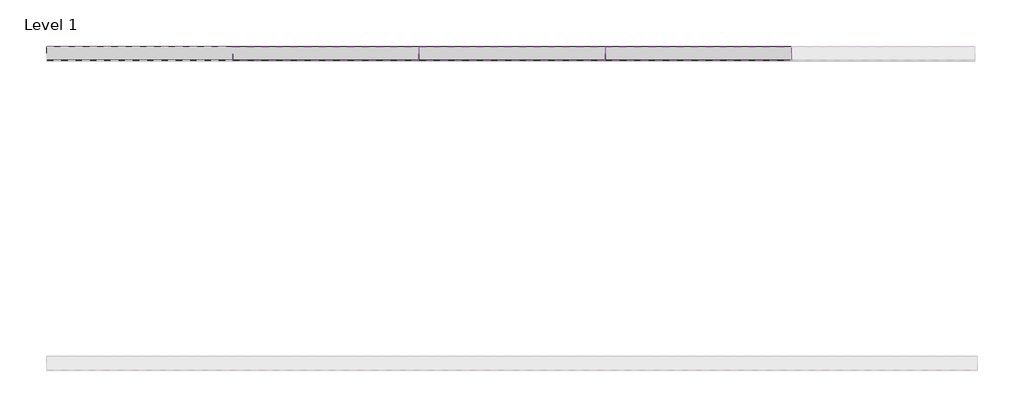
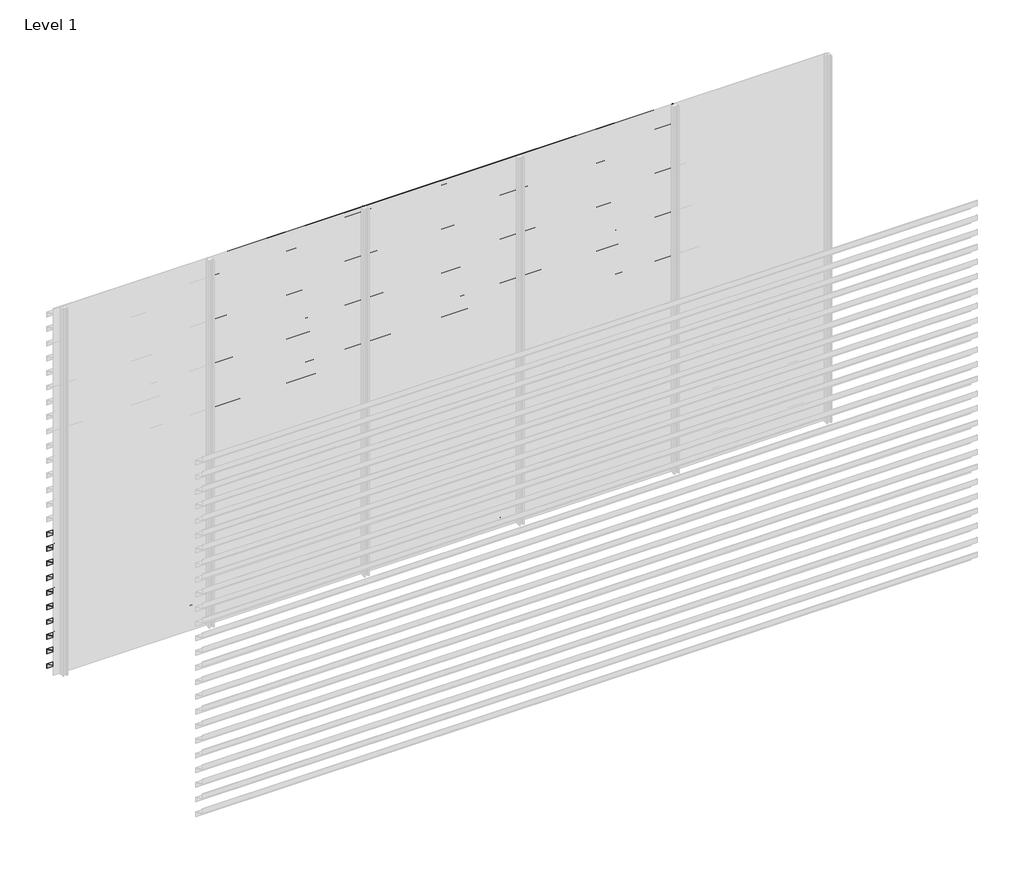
# One storey, part 35 of 46: 85 proxies.
"""IFC4 building model written with IfcOpenShell, lengths in millimetres."""

from ifc_helpers import new_model, si_unit, frame, origin, place, context, project, spatial, polyline, outline, extrude, element, save

model = new_model("IFC4")

# Units and contexts
model_context = context("Model", 3, world=origin())
ifc_project = project(units=[si_unit("LENGTHUNIT", "METRE", prefix="MILLI")], contexts=[model_context])

# Site, building, storey
site = spatial("IfcSite", under=ifc_project)
building = spatial("IfcBuilding", under=site)
storey = spatial("IfcBuildingStorey", under=building, Name="Level 1", Elevation=0.0)

# Proxies
placement = place(None, origin())
element("IfcBuildingElementProxy", 1, Name="Wall Sweeps", at=placement, inside=storey, context=model_context, shape_type="SweptSolid", body=[
    extrude(outline(polyline([(59023.0540136, 1120.0), (59023.0540136, 1080.0), (59021.0540136, 1081.349017), (59021.0540136, 1118.7258595), (58933.0540136, 1159.7609334), (58933.0540136, 1200.0), (58935.0540136, 1200.0), (58935.0540136, 1161.0350739), (59023.0540136, 1120.0)])), frame((466.6208097, 0.0, 0.0), z_axis=(1.0, 0.0, 0.0), x_axis=(0.0, 1.0, 0.0)), (0.0, 0.0, 1.0), 1200.0000002),
])
element("IfcBuildingElementProxy", 2, Name="Wall Sweeps", at=placement, inside=storey, context=model_context, shape_type="SweptSolid", body=[
    extrude(outline(polyline([(59023.0540136, 1000.0), (59023.0540136, 960.0), (59021.0540136, 961.349017), (59021.0540136, 998.7258595), (58933.0540136, 1039.7609334), (58933.0540136, 1080.0), (58935.0540136, 1080.0), (58935.0540136, 1041.0350739), (59023.0540136, 1000.0)])), frame((466.6208097, 0.0, 0.0), z_axis=(1.0, 0.0, 0.0), x_axis=(0.0, 1.0, 0.0)), (0.0, 0.0, 1.0), 1200.0000002),
])
element("IfcBuildingElementProxy", 3, Name="Wall Sweeps", at=placement, inside=storey, context=model_context, shape_type="SweptSolid", body=[
    extrude(outline(polyline([(59023.0540136, 880.0), (59023.0540136, 840.0), (59021.0540136, 841.349017), (59021.0540136, 878.7258595), (58933.0540136, 919.7609334), (58933.0540136, 960.0), (58935.0540136, 960.0), (58935.0540136, 921.0350739), (59023.0540136, 880.0)])), frame((466.6208097, 0.0, 0.0), z_axis=(1.0, 0.0, 0.0), x_axis=(0.0, 1.0, 0.0)), (0.0, 0.0, 1.0), 1200.0000002),
])
element("IfcBuildingElementProxy", 4, Name="Wall Sweeps", at=placement, inside=storey, context=model_context, shape_type="SweptSolid", body=[
    extrude(outline(polyline([(59023.0540136, 760.0), (59023.0540136, 720.0), (59021.0540136, 721.349017), (59021.0540136, 758.7258595), (58933.0540136, 799.7609334), (58933.0540136, 840.0), (58935.0540136, 840.0), (58935.0540136, 801.0350739), (59023.0540136, 760.0)])), frame((466.6208097, 0.0, 0.0), z_axis=(1.0, 0.0, 0.0), x_axis=(0.0, 1.0, 0.0)), (0.0, 0.0, 1.0), 1200.0000002),
])
element("IfcBuildingElementProxy", 5, Name="Wall Sweeps", at=placement, inside=storey, context=model_context, shape_type="SweptSolid", body=[
    extrude(outline(polyline([(59023.0540136, 640.0), (59023.0540136, 600.0), (59021.0540136, 601.349017), (59021.0540136, 638.7258595), (58933.0540136, 679.7609334), (58933.0540136, 720.0), (58935.0540136, 720.0), (58935.0540136, 681.0350739), (59023.0540136, 640.0)])), frame((466.6208097, 0.0, 0.0), z_axis=(1.0, 0.0, 0.0), x_axis=(0.0, 1.0, 0.0)), (0.0, 0.0, 1.0), 1200.0000002),
])
element("IfcBuildingElementProxy", 6, Name="Wall Sweeps", at=placement, inside=storey, context=model_context, shape_type="SweptSolid", body=[
    extrude(outline(polyline([(59023.0540136, 520.0), (59023.0540136, 480.0), (59021.0540136, 481.349017), (59021.0540136, 518.7258595), (58933.0540136, 559.7609334), (58933.0540136, 600.0), (58935.0540136, 600.0), (58935.0540136, 561.0350739), (59023.0540136, 520.0)])), frame((466.6208097, 0.0, 0.0), z_axis=(1.0, 0.0, 0.0), x_axis=(0.0, 1.0, 0.0)), (0.0, 0.0, 1.0), 1200.0000002),
])
element("IfcBuildingElementProxy", 7, Name="Wall Sweeps", at=placement, inside=storey, context=model_context, shape_type="SweptSolid", body=[
    extrude(outline(polyline([(59023.0540136, 400.0), (59023.0540136, 360.0), (59021.0540136, 361.349017), (59021.0540136, 398.7258595), (58933.0540136, 439.7609334), (58933.0540136, 480.0), (58935.0540136, 480.0), (58935.0540136, 441.0350739), (59023.0540136, 400.0)])), frame((466.6208097, 0.0, 0.0), z_axis=(1.0, 0.0, 0.0), x_axis=(0.0, 1.0, 0.0)), (0.0, 0.0, 1.0), 1200.0000002),
])
element("IfcBuildingElementProxy", 8, Name="Wall Sweeps", at=placement, inside=storey, context=model_context, shape_type="SweptSolid", body=[
    extrude(outline(polyline([(59023.0540136, 280.0), (59023.0540136, 240.0), (59021.0540136, 241.349017), (59021.0540136, 278.7258595), (58933.0540136, 319.7609334), (58933.0540136, 360.0), (58935.0540136, 360.0), (58935.0540136, 321.0350739), (59023.0540136, 280.0)])), frame((466.6208097, 0.0, 0.0), z_axis=(1.0, 0.0, 0.0), x_axis=(0.0, 1.0, 0.0)), (0.0, 0.0, 1.0), 1200.0000002),
])
element("IfcBuildingElementProxy", 9, Name="Wall Sweeps", at=placement, inside=storey, context=model_context, shape_type="SweptSolid", body=[
    extrude(outline(polyline([(59023.0540136, 160.0), (59023.0540136, 120.0), (59021.0540136, 121.349017), (59021.0540136, 158.7258595), (58933.0540136, 199.7609334), (58933.0540136, 240.0), (58935.0540136, 240.0), (58935.0540136, 201.0350739), (59023.0540136, 160.0)])), frame((466.6208097, 0.0, 0.0), z_axis=(1.0, 0.0, 0.0), x_axis=(0.0, 1.0, 0.0)), (0.0, 0.0, 1.0), 1200.0000002),
])
element("IfcBuildingElementProxy", 10, Name="Wall Sweeps", at=placement, inside=storey, context=model_context, shape_type="SweptSolid", body=[
    extrude(outline(polyline([(59023.0540136, 40.0), (59023.0540136, 0.0), (59021.0540136, 1.349017), (59021.0540136, 38.7258595), (58933.0540136, 79.7609334), (58933.0540136, 120.0), (58935.0540136, 120.0), (58935.0540136, 81.0350739), (59023.0540136, 40.0)])), frame((466.6208097, 0.0, 0.0), z_axis=(1.0, 0.0, 0.0), x_axis=(0.0, 1.0, 0.0)), (0.0, 0.0, 1.0), 1200.0000002),
])
element("IfcBuildingElementProxy", 11, Name="Wall Sweeps", at=placement, inside=storey, context=model_context, shape_type="SweptSolid", body=[
    extrude(outline(polyline([(59023.0540136, 2920.0), (59023.0540136, 2880.0), (59021.0540136, 2881.349017), (59021.0540136, 2918.7258595), (58933.0540136, 2959.7609334), (58933.0540136, 3000.0), (58935.0540136, 3000.0), (58935.0540136, 2961.0350739), (59023.0540136, 2920.0)])), frame((1666.6208099, 0.0, 0.0), z_axis=(1.0, 0.0, 0.0), x_axis=(0.0, 1.0, 0.0)), (0.0, 0.0, 1.0), 1199.9999999),
])
element("IfcBuildingElementProxy", 12, Name="Wall Sweeps", at=placement, inside=storey, context=model_context, shape_type="SweptSolid", body=[
    extrude(outline(polyline([(59023.0540136, 2800.0), (59023.0540136, 2760.0), (59021.0540136, 2761.349017), (59021.0540136, 2798.7258595), (58933.0540136, 2839.7609334), (58933.0540136, 2880.0), (58935.0540136, 2880.0), (58935.0540136, 2841.0350739), (59023.0540136, 2800.0)])), frame((1666.6208099, 0.0, 0.0), z_axis=(1.0, 0.0, 0.0), x_axis=(0.0, 1.0, 0.0)), (0.0, 0.0, 1.0), 1199.9999999),
])
element("IfcBuildingElementProxy", 13, Name="Wall Sweeps", at=placement, inside=storey, context=model_context, shape_type="SweptSolid", body=[
    extrude(outline(polyline([(59023.0540136, 2680.0), (59023.0540136, 2640.0), (59021.0540136, 2641.349017), (59021.0540136, 2678.7258595), (58933.0540136, 2719.7609334), (58933.0540136, 2760.0), (58935.0540136, 2760.0), (58935.0540136, 2721.0350739), (59023.0540136, 2680.0)])), frame((1666.6208099, 0.0, 0.0), z_axis=(1.0, 0.0, 0.0), x_axis=(0.0, 1.0, 0.0)), (0.0, 0.0, 1.0), 1199.9999999),
])
element("IfcBuildingElementProxy", 14, Name="Wall Sweeps", at=placement, inside=storey, context=model_context, shape_type="SweptSolid", body=[
    extrude(outline(polyline([(59023.0540136, 2560.0), (59023.0540136, 2520.0), (59021.0540136, 2521.349017), (59021.0540136, 2558.7258595), (58933.0540136, 2599.7609334), (58933.0540136, 2640.0), (58935.0540136, 2640.0), (58935.0540136, 2601.0350739), (59023.0540136, 2560.0)])), frame((1666.6208099, 0.0, 0.0), z_axis=(1.0, 0.0, 0.0), x_axis=(0.0, 1.0, 0.0)), (0.0, 0.0, 1.0), 1199.9999999),
])
element("IfcBuildingElementProxy", 15, Name="Wall Sweeps", at=placement, inside=storey, context=model_context, shape_type="SweptSolid", body=[
    extrude(outline(polyline([(59023.0540136, 2440.0), (59023.0540136, 2400.0), (59021.0540136, 2401.349017), (59021.0540136, 2438.7258595), (58933.0540136, 2479.7609334), (58933.0540136, 2520.0), (58935.0540136, 2520.0), (58935.0540136, 2481.0350739), (59023.0540136, 2440.0)])), frame((1666.6208099, 0.0, 0.0), z_axis=(1.0, 0.0, 0.0), x_axis=(0.0, 1.0, 0.0)), (0.0, 0.0, 1.0), 1199.9999999),
])
element("IfcBuildingElementProxy", 16, Name="Wall Sweeps", at=placement, inside=storey, context=model_context, shape_type="SweptSolid", body=[
    extrude(outline(polyline([(59023.0540136, 2320.0), (59023.0540136, 2280.0), (59021.0540136, 2281.349017), (59021.0540136, 2318.7258595), (58933.0540136, 2359.7609334), (58933.0540136, 2400.0), (58935.0540136, 2400.0), (58935.0540136, 2361.0350739), (59023.0540136, 2320.0)])), frame((1666.6208099, 0.0, 0.0), z_axis=(1.0, 0.0, 0.0), x_axis=(0.0, 1.0, 0.0)), (0.0, 0.0, 1.0), 1199.9999999),
])
element("IfcBuildingElementProxy", 17, Name="Wall Sweeps", at=placement, inside=storey, context=model_context, shape_type="SweptSolid", body=[
    extrude(outline(polyline([(59023.0540136, 2200.0), (59023.0540136, 2160.0), (59021.0540136, 2161.349017), (59021.0540136, 2198.7258595), (58933.0540136, 2239.7609334), (58933.0540136, 2280.0), (58935.0540136, 2280.0), (58935.0540136, 2241.0350739), (59023.0540136, 2200.0)])), frame((1666.6208099, 0.0, 0.0), z_axis=(1.0, 0.0, 0.0), x_axis=(0.0, 1.0, 0.0)), (0.0, 0.0, 1.0), 1199.9999999),
])
element("IfcBuildingElementProxy", 18, Name="Wall Sweeps", at=placement, inside=storey, context=model_context, shape_type="SweptSolid", body=[
    extrude(outline(polyline([(59023.0540136, 2080.0), (59023.0540136, 2040.0), (59021.0540136, 2041.349017), (59021.0540136, 2078.7258595), (58933.0540136, 2119.7609334), (58933.0540136, 2160.0), (58935.0540136, 2160.0), (58935.0540136, 2121.0350739), (59023.0540136, 2080.0)])), frame((1666.6208099, 0.0, 0.0), z_axis=(1.0, 0.0, 0.0), x_axis=(0.0, 1.0, 0.0)), (0.0, 0.0, 1.0), 1199.9999999),
])
element("IfcBuildingElementProxy", 19, Name="Wall Sweeps", at=placement, inside=storey, context=model_context, shape_type="SweptSolid", body=[
    extrude(outline(polyline([(59023.0540136, 1960.0), (59023.0540136, 1920.0), (59021.0540136, 1921.349017), (59021.0540136, 1958.7258595), (58933.0540136, 1999.7609334), (58933.0540136, 2040.0), (58935.0540136, 2040.0), (58935.0540136, 2001.0350739), (59023.0540136, 1960.0)])), frame((1666.6208099, 0.0, 0.0), z_axis=(1.0, 0.0, 0.0), x_axis=(0.0, 1.0, 0.0)), (0.0, 0.0, 1.0), 1199.9999999),
])
element("IfcBuildingElementProxy", 20, Name="Wall Sweeps", at=placement, inside=storey, context=model_context, shape_type="SweptSolid", body=[
    extrude(outline(polyline([(59023.0540136, 1840.0), (59023.0540136, 1800.0), (59021.0540136, 1801.349017), (59021.0540136, 1838.7258595), (58933.0540136, 1879.7609334), (58933.0540136, 1920.0), (58935.0540136, 1920.0), (58935.0540136, 1881.0350739), (59023.0540136, 1840.0)])), frame((1666.6208099, 0.0, 0.0), z_axis=(1.0, 0.0, 0.0), x_axis=(0.0, 1.0, 0.0)), (0.0, 0.0, 1.0), 1199.9999999),
])
element("IfcBuildingElementProxy", 21, Name="Wall Sweeps", at=placement, inside=storey, context=model_context, shape_type="SweptSolid", body=[
    extrude(outline(polyline([(59023.0540136, 1720.0), (59023.0540136, 1680.0), (59021.0540136, 1681.349017), (59021.0540136, 1718.7258595), (58933.0540136, 1759.7609334), (58933.0540136, 1800.0), (58935.0540136, 1800.0), (58935.0540136, 1761.0350739), (59023.0540136, 1720.0)])), frame((1666.6208099, 0.0, 0.0), z_axis=(1.0, 0.0, 0.0), x_axis=(0.0, 1.0, 0.0)), (0.0, 0.0, 1.0), 1199.9999999),
])
element("IfcBuildingElementProxy", 22, Name="Wall Sweeps", at=placement, inside=storey, context=model_context, shape_type="SweptSolid", body=[
    extrude(outline(polyline([(59023.0540136, 1600.0), (59023.0540136, 1560.0), (59021.0540136, 1561.349017), (59021.0540136, 1598.7258595), (58933.0540136, 1639.7609334), (58933.0540136, 1680.0), (58935.0540136, 1680.0), (58935.0540136, 1641.0350739), (59023.0540136, 1600.0)])), frame((1666.6208099, 0.0, 0.0), z_axis=(1.0, 0.0, 0.0), x_axis=(0.0, 1.0, 0.0)), (0.0, 0.0, 1.0), 1199.9999999),
])
element("IfcBuildingElementProxy", 23, Name="Wall Sweeps", at=placement, inside=storey, context=model_context, shape_type="SweptSolid", body=[
    extrude(outline(polyline([(59023.0540136, 1480.0), (59023.0540136, 1440.0), (59021.0540136, 1441.349017), (59021.0540136, 1478.7258595), (58933.0540136, 1519.7609334), (58933.0540136, 1560.0), (58935.0540136, 1560.0), (58935.0540136, 1521.0350739), (59023.0540136, 1480.0)])), frame((1666.6208099, 0.0, 0.0), z_axis=(1.0, 0.0, 0.0), x_axis=(0.0, 1.0, 0.0)), (0.0, 0.0, 1.0), 1199.9999999),
])
element("IfcBuildingElementProxy", 24, Name="Wall Sweeps", at=placement, inside=storey, context=model_context, shape_type="SweptSolid", body=[
    extrude(outline(polyline([(59023.0540136, 1360.0), (59023.0540136, 1320.0), (59021.0540136, 1321.349017), (59021.0540136, 1358.7258595), (58933.0540136, 1399.7609334), (58933.0540136, 1440.0), (58935.0540136, 1440.0), (58935.0540136, 1401.0350739), (59023.0540136, 1360.0)])), frame((1666.6208099, 0.0, 0.0), z_axis=(1.0, 0.0, 0.0), x_axis=(0.0, 1.0, 0.0)), (0.0, 0.0, 1.0), 1199.9999999),
])
element("IfcBuildingElementProxy", 25, Name="Wall Sweeps", at=placement, inside=storey, context=model_context, shape_type="SweptSolid", body=[
    extrude(outline(polyline([(59023.0540136, 1240.0), (59023.0540136, 1200.0), (59021.0540136, 1201.349017), (59021.0540136, 1238.7258595), (58933.0540136, 1279.7609334), (58933.0540136, 1320.0), (58935.0540136, 1320.0), (58935.0540136, 1281.0350739), (59023.0540136, 1240.0)])), frame((1666.6208099, 0.0, 0.0), z_axis=(1.0, 0.0, 0.0), x_axis=(0.0, 1.0, 0.0)), (0.0, 0.0, 1.0), 1199.9999999),
])
element("IfcBuildingElementProxy", 26, Name="Wall Sweeps", at=placement, inside=storey, context=model_context, shape_type="SweptSolid", body=[
    extrude(outline(polyline([(59023.0540136, 1120.0), (59023.0540136, 1080.0), (59021.0540136, 1081.349017), (59021.0540136, 1118.7258595), (58933.0540136, 1159.7609334), (58933.0540136, 1200.0), (58935.0540136, 1200.0), (58935.0540136, 1161.0350739), (59023.0540136, 1120.0)])), frame((1666.6208099, 0.0, 0.0), z_axis=(1.0, 0.0, 0.0), x_axis=(0.0, 1.0, 0.0)), (0.0, 0.0, 1.0), 1199.9999999),
])
element("IfcBuildingElementProxy", 27, Name="Wall Sweeps", at=placement, inside=storey, context=model_context, shape_type="SweptSolid", body=[
    extrude(outline(polyline([(59023.0540136, 1000.0), (59023.0540136, 960.0), (59021.0540136, 961.349017), (59021.0540136, 998.7258595), (58933.0540136, 1039.7609334), (58933.0540136, 1080.0), (58935.0540136, 1080.0), (58935.0540136, 1041.0350739), (59023.0540136, 1000.0)])), frame((1666.6208099, 0.0, 0.0), z_axis=(1.0, 0.0, 0.0), x_axis=(0.0, 1.0, 0.0)), (0.0, 0.0, 1.0), 1199.9999999),
])
element("IfcBuildingElementProxy", 28, Name="Wall Sweeps", at=placement, inside=storey, context=model_context, shape_type="SweptSolid", body=[
    extrude(outline(polyline([(59023.0540136, 880.0), (59023.0540136, 840.0), (59021.0540136, 841.349017), (59021.0540136, 878.7258595), (58933.0540136, 919.7609334), (58933.0540136, 960.0), (58935.0540136, 960.0), (58935.0540136, 921.0350739), (59023.0540136, 880.0)])), frame((1666.6208099, 0.0, 0.0), z_axis=(1.0, 0.0, 0.0), x_axis=(0.0, 1.0, 0.0)), (0.0, 0.0, 1.0), 1199.9999999),
])
element("IfcBuildingElementProxy", 29, Name="Wall Sweeps", at=placement, inside=storey, context=model_context, shape_type="SweptSolid", body=[
    extrude(outline(polyline([(59023.0540136, 760.0), (59023.0540136, 720.0), (59021.0540136, 721.349017), (59021.0540136, 758.7258595), (58933.0540136, 799.7609334), (58933.0540136, 840.0), (58935.0540136, 840.0), (58935.0540136, 801.0350739), (59023.0540136, 760.0)])), frame((1666.6208099, 0.0, 0.0), z_axis=(1.0, 0.0, 0.0), x_axis=(0.0, 1.0, 0.0)), (0.0, 0.0, 1.0), 1199.9999999),
])
element("IfcBuildingElementProxy", 30, Name="Wall Sweeps", at=placement, inside=storey, context=model_context, shape_type="SweptSolid", body=[
    extrude(outline(polyline([(59023.0540136, 640.0), (59023.0540136, 600.0), (59021.0540136, 601.349017), (59021.0540136, 638.7258595), (58933.0540136, 679.7609334), (58933.0540136, 720.0), (58935.0540136, 720.0), (58935.0540136, 681.0350739), (59023.0540136, 640.0)])), frame((1666.6208099, 0.0, 0.0), z_axis=(1.0, 0.0, 0.0), x_axis=(0.0, 1.0, 0.0)), (0.0, 0.0, 1.0), 1199.9999999),
])
element("IfcBuildingElementProxy", 31, Name="Wall Sweeps", at=placement, inside=storey, context=model_context, shape_type="SweptSolid", body=[
    extrude(outline(polyline([(59023.0540136, 520.0), (59023.0540136, 480.0), (59021.0540136, 481.349017), (59021.0540136, 518.7258595), (58933.0540136, 559.7609334), (58933.0540136, 600.0), (58935.0540136, 600.0), (58935.0540136, 561.0350739), (59023.0540136, 520.0)])), frame((1666.6208099, 0.0, 0.0), z_axis=(1.0, 0.0, 0.0), x_axis=(0.0, 1.0, 0.0)), (0.0, 0.0, 1.0), 1199.9999999),
])
element("IfcBuildingElementProxy", 32, Name="Wall Sweeps", at=placement, inside=storey, context=model_context, shape_type="SweptSolid", body=[
    extrude(outline(polyline([(59023.0540136, 400.0), (59023.0540136, 360.0), (59021.0540136, 361.349017), (59021.0540136, 398.7258595), (58933.0540136, 439.7609334), (58933.0540136, 480.0), (58935.0540136, 480.0), (58935.0540136, 441.0350739), (59023.0540136, 400.0)])), frame((1666.6208099, 0.0, 0.0), z_axis=(1.0, 0.0, 0.0), x_axis=(0.0, 1.0, 0.0)), (0.0, 0.0, 1.0), 1199.9999999),
])
element("IfcBuildingElementProxy", 33, Name="Wall Sweeps", at=placement, inside=storey, context=model_context, shape_type="SweptSolid", body=[
    extrude(outline(polyline([(59023.0540136, 280.0), (59023.0540136, 240.0), (59021.0540136, 241.349017), (59021.0540136, 278.7258595), (58933.0540136, 319.7609334), (58933.0540136, 360.0), (58935.0540136, 360.0), (58935.0540136, 321.0350739), (59023.0540136, 280.0)])), frame((1666.6208099, 0.0, 0.0), z_axis=(1.0, 0.0, 0.0), x_axis=(0.0, 1.0, 0.0)), (0.0, 0.0, 1.0), 1199.9999999),
])
element("IfcBuildingElementProxy", 34, Name="Wall Sweeps", at=placement, inside=storey, context=model_context, shape_type="SweptSolid", body=[
    extrude(outline(polyline([(59023.0540136, 160.0), (59023.0540136, 120.0), (59021.0540136, 121.349017), (59021.0540136, 158.7258595), (58933.0540136, 199.7609334), (58933.0540136, 240.0), (58935.0540136, 240.0), (58935.0540136, 201.0350739), (59023.0540136, 160.0)])), frame((1666.6208099, 0.0, 0.0), z_axis=(1.0, 0.0, 0.0), x_axis=(0.0, 1.0, 0.0)), (0.0, 0.0, 1.0), 1199.9999999),
])
element("IfcBuildingElementProxy", 35, Name="Wall Sweeps", at=placement, inside=storey, context=model_context, shape_type="SweptSolid", body=[
    extrude(outline(polyline([(59023.0540136, 40.0), (59023.0540136, 0.0), (59021.0540136, 1.349017), (59021.0540136, 38.7258595), (58933.0540136, 79.7609334), (58933.0540136, 120.0), (58935.0540136, 120.0), (58935.0540136, 81.0350739), (59023.0540136, 40.0)])), frame((1666.6208099, 0.0, 0.0), z_axis=(1.0, 0.0, 0.0), x_axis=(0.0, 1.0, 0.0)), (0.0, 0.0, 1.0), 1199.9999999),
])
element("IfcBuildingElementProxy", 36, Name="Wall Sweeps", at=placement, inside=storey, context=model_context, shape_type="SweptSolid", body=[
    extrude(outline(polyline([(59023.0540136, 2920.0), (59023.0540136, 2880.0), (59021.0540136, 2881.349017), (59021.0540136, 2918.7258595), (58933.0540136, 2959.7609334), (58933.0540136, 3000.0), (58935.0540136, 3000.0), (58935.0540136, 2961.0350739), (59023.0540136, 2920.0)])), frame((2866.6208097, 0.0, 0.0), z_axis=(1.0, 0.0, 0.0), x_axis=(0.0, 1.0, 0.0)), (0.0, 0.0, 1.0), 1199.9999999),
])
element("IfcBuildingElementProxy", 37, Name="Wall Sweeps", at=placement, inside=storey, context=model_context, shape_type="SweptSolid", body=[
    extrude(outline(polyline([(59023.0540136, 2800.0), (59023.0540136, 2760.0), (59021.0540136, 2761.349017), (59021.0540136, 2798.7258595), (58933.0540136, 2839.7609334), (58933.0540136, 2880.0), (58935.0540136, 2880.0), (58935.0540136, 2841.0350739), (59023.0540136, 2800.0)])), frame((2866.6208097, 0.0, 0.0), z_axis=(1.0, 0.0, 0.0), x_axis=(0.0, 1.0, 0.0)), (0.0, 0.0, 1.0), 1199.9999999),
])
element("IfcBuildingElementProxy", 38, Name="Wall Sweeps", at=placement, inside=storey, context=model_context, shape_type="SweptSolid", body=[
    extrude(outline(polyline([(59023.0540136, 2680.0), (59023.0540136, 2640.0), (59021.0540136, 2641.349017), (59021.0540136, 2678.7258595), (58933.0540136, 2719.7609334), (58933.0540136, 2760.0), (58935.0540136, 2760.0), (58935.0540136, 2721.0350739), (59023.0540136, 2680.0)])), frame((2866.6208097, 0.0, 0.0), z_axis=(1.0, 0.0, 0.0), x_axis=(0.0, 1.0, 0.0)), (0.0, 0.0, 1.0), 1199.9999999),
])
element("IfcBuildingElementProxy", 39, Name="Wall Sweeps", at=placement, inside=storey, context=model_context, shape_type="SweptSolid", body=[
    extrude(outline(polyline([(59023.0540136, 2560.0), (59023.0540136, 2520.0), (59021.0540136, 2521.349017), (59021.0540136, 2558.7258595), (58933.0540136, 2599.7609334), (58933.0540136, 2640.0), (58935.0540136, 2640.0), (58935.0540136, 2601.0350739), (59023.0540136, 2560.0)])), frame((2866.6208097, 0.0, 0.0), z_axis=(1.0, 0.0, 0.0), x_axis=(0.0, 1.0, 0.0)), (0.0, 0.0, 1.0), 1199.9999999),
])
element("IfcBuildingElementProxy", 40, Name="Wall Sweeps", at=placement, inside=storey, context=model_context, shape_type="SweptSolid", body=[
    extrude(outline(polyline([(59023.0540136, 2440.0), (59023.0540136, 2400.0), (59021.0540136, 2401.349017), (59021.0540136, 2438.7258595), (58933.0540136, 2479.7609334), (58933.0540136, 2520.0), (58935.0540136, 2520.0), (58935.0540136, 2481.0350739), (59023.0540136, 2440.0)])), frame((2866.6208097, 0.0, 0.0), z_axis=(1.0, 0.0, 0.0), x_axis=(0.0, 1.0, 0.0)), (0.0, 0.0, 1.0), 1199.9999999),
])
element("IfcBuildingElementProxy", 41, Name="Wall Sweeps", at=placement, inside=storey, context=model_context, shape_type="SweptSolid", body=[
    extrude(outline(polyline([(59023.0540136, 2320.0), (59023.0540136, 2280.0), (59021.0540136, 2281.349017), (59021.0540136, 2318.7258595), (58933.0540136, 2359.7609334), (58933.0540136, 2400.0), (58935.0540136, 2400.0), (58935.0540136, 2361.0350739), (59023.0540136, 2320.0)])), frame((2866.6208097, 0.0, 0.0), z_axis=(1.0, 0.0, 0.0), x_axis=(0.0, 1.0, 0.0)), (0.0, 0.0, 1.0), 1199.9999999),
])
element("IfcBuildingElementProxy", 42, Name="Wall Sweeps", at=placement, inside=storey, context=model_context, shape_type="SweptSolid", body=[
    extrude(outline(polyline([(59023.0540136, 2200.0), (59023.0540136, 2160.0), (59021.0540136, 2161.349017), (59021.0540136, 2198.7258595), (58933.0540136, 2239.7609334), (58933.0540136, 2280.0), (58935.0540136, 2280.0), (58935.0540136, 2241.0350739), (59023.0540136, 2200.0)])), frame((2866.6208097, 0.0, 0.0), z_axis=(1.0, 0.0, 0.0), x_axis=(0.0, 1.0, 0.0)), (0.0, 0.0, 1.0), 1199.9999999),
])
element("IfcBuildingElementProxy", 43, Name="Wall Sweeps", at=placement, inside=storey, context=model_context, shape_type="SweptSolid", body=[
    extrude(outline(polyline([(59023.0540136, 2080.0), (59023.0540136, 2040.0), (59021.0540136, 2041.349017), (59021.0540136, 2078.7258595), (58933.0540136, 2119.7609334), (58933.0540136, 2160.0), (58935.0540136, 2160.0), (58935.0540136, 2121.0350739), (59023.0540136, 2080.0)])), frame((2866.6208097, 0.0, 0.0), z_axis=(1.0, 0.0, 0.0), x_axis=(0.0, 1.0, 0.0)), (0.0, 0.0, 1.0), 1199.9999999),
])
element("IfcBuildingElementProxy", 44, Name="Wall Sweeps", at=placement, inside=storey, context=model_context, shape_type="SweptSolid", body=[
    extrude(outline(polyline([(59023.0540136, 1960.0), (59023.0540136, 1920.0), (59021.0540136, 1921.349017), (59021.0540136, 1958.7258595), (58933.0540136, 1999.7609334), (58933.0540136, 2040.0), (58935.0540136, 2040.0), (58935.0540136, 2001.0350739), (59023.0540136, 1960.0)])), frame((2866.6208097, 0.0, 0.0), z_axis=(1.0, 0.0, 0.0), x_axis=(0.0, 1.0, 0.0)), (0.0, 0.0, 1.0), 1199.9999999),
])
element("IfcBuildingElementProxy", 45, Name="Wall Sweeps", at=placement, inside=storey, context=model_context, shape_type="SweptSolid", body=[
    extrude(outline(polyline([(59023.0540136, 1840.0), (59023.0540136, 1800.0), (59021.0540136, 1801.349017), (59021.0540136, 1838.7258595), (58933.0540136, 1879.7609334), (58933.0540136, 1920.0), (58935.0540136, 1920.0), (58935.0540136, 1881.0350739), (59023.0540136, 1840.0)])), frame((2866.6208097, 0.0, 0.0), z_axis=(1.0, 0.0, 0.0), x_axis=(0.0, 1.0, 0.0)), (0.0, 0.0, 1.0), 1199.9999999),
])
element("IfcBuildingElementProxy", 46, Name="Wall Sweeps", at=placement, inside=storey, context=model_context, shape_type="SweptSolid", body=[
    extrude(outline(polyline([(59023.0540136, 1720.0), (59023.0540136, 1680.0), (59021.0540136, 1681.349017), (59021.0540136, 1718.7258595), (58933.0540136, 1759.7609334), (58933.0540136, 1800.0), (58935.0540136, 1800.0), (58935.0540136, 1761.0350739), (59023.0540136, 1720.0)])), frame((2866.6208097, 0.0, 0.0), z_axis=(1.0, 0.0, 0.0), x_axis=(0.0, 1.0, 0.0)), (0.0, 0.0, 1.0), 1199.9999999),
])
element("IfcBuildingElementProxy", 47, Name="Wall Sweeps", at=placement, inside=storey, context=model_context, shape_type="SweptSolid", body=[
    extrude(outline(polyline([(59023.0540136, 1600.0), (59023.0540136, 1560.0), (59021.0540136, 1561.349017), (59021.0540136, 1598.7258595), (58933.0540136, 1639.7609334), (58933.0540136, 1680.0), (58935.0540136, 1680.0), (58935.0540136, 1641.0350739), (59023.0540136, 1600.0)])), frame((2866.6208097, 0.0, 0.0), z_axis=(1.0, 0.0, 0.0), x_axis=(0.0, 1.0, 0.0)), (0.0, 0.0, 1.0), 1199.9999999),
])
element("IfcBuildingElementProxy", 48, Name="Wall Sweeps", at=placement, inside=storey, context=model_context, shape_type="SweptSolid", body=[
    extrude(outline(polyline([(59023.0540136, 1480.0), (59023.0540136, 1440.0), (59021.0540136, 1441.349017), (59021.0540136, 1478.7258595), (58933.0540136, 1519.7609334), (58933.0540136, 1560.0), (58935.0540136, 1560.0), (58935.0540136, 1521.0350739), (59023.0540136, 1480.0)])), frame((2866.6208097, 0.0, 0.0), z_axis=(1.0, 0.0, 0.0), x_axis=(0.0, 1.0, 0.0)), (0.0, 0.0, 1.0), 1199.9999999),
])
element("IfcBuildingElementProxy", 49, Name="Wall Sweeps", at=placement, inside=storey, context=model_context, shape_type="SweptSolid", body=[
    extrude(outline(polyline([(59023.0540136, 1360.0), (59023.0540136, 1320.0), (59021.0540136, 1321.349017), (59021.0540136, 1358.7258595), (58933.0540136, 1399.7609334), (58933.0540136, 1440.0), (58935.0540136, 1440.0), (58935.0540136, 1401.0350739), (59023.0540136, 1360.0)])), frame((2866.6208097, 0.0, 0.0), z_axis=(1.0, 0.0, 0.0), x_axis=(0.0, 1.0, 0.0)), (0.0, 0.0, 1.0), 1199.9999999),
])
element("IfcBuildingElementProxy", 50, Name="Wall Sweeps", at=placement, inside=storey, context=model_context, shape_type="SweptSolid", body=[
    extrude(outline(polyline([(59023.0540136, 1240.0), (59023.0540136, 1200.0), (59021.0540136, 1201.349017), (59021.0540136, 1238.7258595), (58933.0540136, 1279.7609334), (58933.0540136, 1320.0), (58935.0540136, 1320.0), (58935.0540136, 1281.0350739), (59023.0540136, 1240.0)])), frame((2866.6208097, 0.0, 0.0), z_axis=(1.0, 0.0, 0.0), x_axis=(0.0, 1.0, 0.0)), (0.0, 0.0, 1.0), 1199.9999999),
])
element("IfcBuildingElementProxy", 51, Name="Wall Sweeps", at=placement, inside=storey, context=model_context, shape_type="SweptSolid", body=[
    extrude(outline(polyline([(59023.0540136, 1120.0), (59023.0540136, 1080.0), (59021.0540136, 1081.349017), (59021.0540136, 1118.7258595), (58933.0540136, 1159.7609334), (58933.0540136, 1200.0), (58935.0540136, 1200.0), (58935.0540136, 1161.0350739), (59023.0540136, 1120.0)])), frame((2866.6208097, 0.0, 0.0), z_axis=(1.0, 0.0, 0.0), x_axis=(0.0, 1.0, 0.0)), (0.0, 0.0, 1.0), 1199.9999999),
])
element("IfcBuildingElementProxy", 52, Name="Wall Sweeps", at=placement, inside=storey, context=model_context, shape_type="SweptSolid", body=[
    extrude(outline(polyline([(59023.0540136, 1000.0), (59023.0540136, 960.0), (59021.0540136, 961.349017), (59021.0540136, 998.7258595), (58933.0540136, 1039.7609334), (58933.0540136, 1080.0), (58935.0540136, 1080.0), (58935.0540136, 1041.0350739), (59023.0540136, 1000.0)])), frame((2866.6208097, 0.0, 0.0), z_axis=(1.0, 0.0, 0.0), x_axis=(0.0, 1.0, 0.0)), (0.0, 0.0, 1.0), 1199.9999999),
])
element("IfcBuildingElementProxy", 53, Name="Wall Sweeps", at=placement, inside=storey, context=model_context, shape_type="SweptSolid", body=[
    extrude(outline(polyline([(59023.0540136, 880.0), (59023.0540136, 840.0), (59021.0540136, 841.349017), (59021.0540136, 878.7258595), (58933.0540136, 919.7609334), (58933.0540136, 960.0), (58935.0540136, 960.0), (58935.0540136, 921.0350739), (59023.0540136, 880.0)])), frame((2866.6208097, 0.0, 0.0), z_axis=(1.0, 0.0, 0.0), x_axis=(0.0, 1.0, 0.0)), (0.0, 0.0, 1.0), 1199.9999999),
])
element("IfcBuildingElementProxy", 54, Name="Wall Sweeps", at=placement, inside=storey, context=model_context, shape_type="SweptSolid", body=[
    extrude(outline(polyline([(59023.0540136, 760.0), (59023.0540136, 720.0), (59021.0540136, 721.349017), (59021.0540136, 758.7258595), (58933.0540136, 799.7609334), (58933.0540136, 840.0), (58935.0540136, 840.0), (58935.0540136, 801.0350739), (59023.0540136, 760.0)])), frame((2866.6208097, 0.0, 0.0), z_axis=(1.0, 0.0, 0.0), x_axis=(0.0, 1.0, 0.0)), (0.0, 0.0, 1.0), 1199.9999999),
])
element("IfcBuildingElementProxy", 55, Name="Wall Sweeps", at=placement, inside=storey, context=model_context, shape_type="SweptSolid", body=[
    extrude(outline(polyline([(59023.0540136, 640.0), (59023.0540136, 600.0), (59021.0540136, 601.349017), (59021.0540136, 638.7258595), (58933.0540136, 679.7609334), (58933.0540136, 720.0), (58935.0540136, 720.0), (58935.0540136, 681.0350739), (59023.0540136, 640.0)])), frame((2866.6208097, 0.0, 0.0), z_axis=(1.0, 0.0, 0.0), x_axis=(0.0, 1.0, 0.0)), (0.0, 0.0, 1.0), 1199.9999999),
])
element("IfcBuildingElementProxy", 56, Name="Wall Sweeps", at=placement, inside=storey, context=model_context, shape_type="SweptSolid", body=[
    extrude(outline(polyline([(59023.0540136, 520.0), (59023.0540136, 480.0), (59021.0540136, 481.349017), (59021.0540136, 518.7258595), (58933.0540136, 559.7609334), (58933.0540136, 600.0), (58935.0540136, 600.0), (58935.0540136, 561.0350739), (59023.0540136, 520.0)])), frame((2866.6208097, 0.0, 0.0), z_axis=(1.0, 0.0, 0.0), x_axis=(0.0, 1.0, 0.0)), (0.0, 0.0, 1.0), 1199.9999999),
])
element("IfcBuildingElementProxy", 57, Name="Wall Sweeps", at=placement, inside=storey, context=model_context, shape_type="SweptSolid", body=[
    extrude(outline(polyline([(59023.0540136, 400.0), (59023.0540136, 360.0), (59021.0540136, 361.349017), (59021.0540136, 398.7258595), (58933.0540136, 439.7609334), (58933.0540136, 480.0), (58935.0540136, 480.0), (58935.0540136, 441.0350739), (59023.0540136, 400.0)])), frame((2866.6208097, 0.0, 0.0), z_axis=(1.0, 0.0, 0.0), x_axis=(0.0, 1.0, 0.0)), (0.0, 0.0, 1.0), 1199.9999999),
])
element("IfcBuildingElementProxy", 58, Name="Wall Sweeps", at=placement, inside=storey, context=model_context, shape_type="SweptSolid", body=[
    extrude(outline(polyline([(59023.0540136, 280.0), (59023.0540136, 240.0), (59021.0540136, 241.349017), (59021.0540136, 278.7258595), (58933.0540136, 319.7609334), (58933.0540136, 360.0), (58935.0540136, 360.0), (58935.0540136, 321.0350739), (59023.0540136, 280.0)])), frame((2866.6208097, 0.0, 0.0), z_axis=(1.0, 0.0, 0.0), x_axis=(0.0, 1.0, 0.0)), (0.0, 0.0, 1.0), 1199.9999999),
])
element("IfcBuildingElementProxy", 59, Name="Wall Sweeps", at=placement, inside=storey, context=model_context, shape_type="SweptSolid", body=[
    extrude(outline(polyline([(59023.0540136, 160.0), (59023.0540136, 120.0), (59021.0540136, 121.349017), (59021.0540136, 158.7258595), (58933.0540136, 199.7609334), (58933.0540136, 240.0), (58935.0540136, 240.0), (58935.0540136, 201.0350739), (59023.0540136, 160.0)])), frame((2866.6208097, 0.0, 0.0), z_axis=(1.0, 0.0, 0.0), x_axis=(0.0, 1.0, 0.0)), (0.0, 0.0, 1.0), 1199.9999999),
])
element("IfcBuildingElementProxy", 60, Name="Wall Sweeps", at=placement, inside=storey, context=model_context, shape_type="SweptSolid", body=[
    extrude(outline(polyline([(59023.0540136, 40.0), (59023.0540136, 0.0), (59021.0540136, 1.349017), (59021.0540136, 38.7258595), (58933.0540136, 79.7609334), (58933.0540136, 120.0), (58935.0540136, 120.0), (58935.0540136, 81.0350739), (59023.0540136, 40.0)])), frame((2866.6208097, 0.0, 0.0), z_axis=(1.0, 0.0, 0.0), x_axis=(0.0, 1.0, 0.0)), (0.0, 0.0, 1.0), 1199.9999999),
])
element("IfcBuildingElementProxy", 61, Name="Wall Sweeps", at=placement, inside=storey, context=model_context, shape_type="SweptSolid", body=[
    extrude(outline(polyline([(59023.0540136, 2920.0), (59023.0540136, 2880.0), (59021.0540136, 2881.349017), (59021.0540136, 2918.7258595), (58933.0540136, 2959.7609334), (58933.0540136, 3000.0), (58935.0540136, 3000.0), (58935.0540136, 2961.0350739), (59023.0540136, 2920.0)])), frame((4066.6208096, 0.0, 0.0), z_axis=(1.0, 0.0, 0.0), x_axis=(0.0, 1.0, 0.0)), (0.0, 0.0, 1.0), 1199.9999999),
])
element("IfcBuildingElementProxy", 62, Name="Wall Sweeps", at=placement, inside=storey, context=model_context, shape_type="SweptSolid", body=[
    extrude(outline(polyline([(59023.0540136, 2800.0), (59023.0540136, 2760.0), (59021.0540136, 2761.349017), (59021.0540136, 2798.7258595), (58933.0540136, 2839.7609334), (58933.0540136, 2880.0), (58935.0540136, 2880.0), (58935.0540136, 2841.0350739), (59023.0540136, 2800.0)])), frame((4066.6208096, 0.0, 0.0), z_axis=(1.0, 0.0, 0.0), x_axis=(0.0, 1.0, 0.0)), (0.0, 0.0, 1.0), 1199.9999999),
])
element("IfcBuildingElementProxy", 63, Name="Wall Sweeps", at=placement, inside=storey, context=model_context, shape_type="SweptSolid", body=[
    extrude(outline(polyline([(59023.0540136, 2680.0), (59023.0540136, 2640.0), (59021.0540136, 2641.349017), (59021.0540136, 2678.7258595), (58933.0540136, 2719.7609334), (58933.0540136, 2760.0), (58935.0540136, 2760.0), (58935.0540136, 2721.0350739), (59023.0540136, 2680.0)])), frame((4066.6208096, 0.0, 0.0), z_axis=(1.0, 0.0, 0.0), x_axis=(0.0, 1.0, 0.0)), (0.0, 0.0, 1.0), 1199.9999999),
])
element("IfcBuildingElementProxy", 64, Name="Wall Sweeps", at=placement, inside=storey, context=model_context, shape_type="SweptSolid", body=[
    extrude(outline(polyline([(59023.0540136, 2560.0), (59023.0540136, 2520.0), (59021.0540136, 2521.349017), (59021.0540136, 2558.7258595), (58933.0540136, 2599.7609334), (58933.0540136, 2640.0), (58935.0540136, 2640.0), (58935.0540136, 2601.0350739), (59023.0540136, 2560.0)])), frame((4066.6208096, 0.0, 0.0), z_axis=(1.0, 0.0, 0.0), x_axis=(0.0, 1.0, 0.0)), (0.0, 0.0, 1.0), 1199.9999999),
])
element("IfcBuildingElementProxy", 65, Name="Wall Sweeps", at=placement, inside=storey, context=model_context, shape_type="SweptSolid", body=[
    extrude(outline(polyline([(59023.0540136, 2440.0), (59023.0540136, 2400.0), (59021.0540136, 2401.349017), (59021.0540136, 2438.7258595), (58933.0540136, 2479.7609334), (58933.0540136, 2520.0), (58935.0540136, 2520.0), (58935.0540136, 2481.0350739), (59023.0540136, 2440.0)])), frame((4066.6208096, 0.0, 0.0), z_axis=(1.0, 0.0, 0.0), x_axis=(0.0, 1.0, 0.0)), (0.0, 0.0, 1.0), 1199.9999999),
])
element("IfcBuildingElementProxy", 66, Name="Wall Sweeps", at=placement, inside=storey, context=model_context, shape_type="SweptSolid", body=[
    extrude(outline(polyline([(59023.0540136, 2320.0), (59023.0540136, 2280.0), (59021.0540136, 2281.349017), (59021.0540136, 2318.7258595), (58933.0540136, 2359.7609334), (58933.0540136, 2400.0), (58935.0540136, 2400.0), (58935.0540136, 2361.0350739), (59023.0540136, 2320.0)])), frame((4066.6208096, 0.0, 0.0), z_axis=(1.0, 0.0, 0.0), x_axis=(0.0, 1.0, 0.0)), (0.0, 0.0, 1.0), 1199.9999999),
])
element("IfcBuildingElementProxy", 67, Name="Wall Sweeps", at=placement, inside=storey, context=model_context, shape_type="SweptSolid", body=[
    extrude(outline(polyline([(59023.0540136, 2200.0), (59023.0540136, 2160.0), (59021.0540136, 2161.349017), (59021.0540136, 2198.7258595), (58933.0540136, 2239.7609334), (58933.0540136, 2280.0), (58935.0540136, 2280.0), (58935.0540136, 2241.0350739), (59023.0540136, 2200.0)])), frame((4066.6208096, 0.0, 0.0), z_axis=(1.0, 0.0, 0.0), x_axis=(0.0, 1.0, 0.0)), (0.0, 0.0, 1.0), 1199.9999999),
])
element("IfcBuildingElementProxy", 68, Name="Wall Sweeps", at=placement, inside=storey, context=model_context, shape_type="SweptSolid", body=[
    extrude(outline(polyline([(59023.0540136, 2080.0), (59023.0540136, 2040.0), (59021.0540136, 2041.349017), (59021.0540136, 2078.7258595), (58933.0540136, 2119.7609334), (58933.0540136, 2160.0), (58935.0540136, 2160.0), (58935.0540136, 2121.0350739), (59023.0540136, 2080.0)])), frame((4066.6208096, 0.0, 0.0), z_axis=(1.0, 0.0, 0.0), x_axis=(0.0, 1.0, 0.0)), (0.0, 0.0, 1.0), 1199.9999999),
])
element("IfcBuildingElementProxy", 69, Name="Wall Sweeps", at=placement, inside=storey, context=model_context, shape_type="SweptSolid", body=[
    extrude(outline(polyline([(59023.0540136, 1960.0), (59023.0540136, 1920.0), (59021.0540136, 1921.349017), (59021.0540136, 1958.7258595), (58933.0540136, 1999.7609334), (58933.0540136, 2040.0), (58935.0540136, 2040.0), (58935.0540136, 2001.0350739), (59023.0540136, 1960.0)])), frame((4066.6208096, 0.0, 0.0), z_axis=(1.0, 0.0, 0.0), x_axis=(0.0, 1.0, 0.0)), (0.0, 0.0, 1.0), 1199.9999999),
])
element("IfcBuildingElementProxy", 70, Name="Wall Sweeps", at=placement, inside=storey, context=model_context, shape_type="SweptSolid", body=[
    extrude(outline(polyline([(59023.0540136, 1840.0), (59023.0540136, 1800.0), (59021.0540136, 1801.349017), (59021.0540136, 1838.7258595), (58933.0540136, 1879.7609334), (58933.0540136, 1920.0), (58935.0540136, 1920.0), (58935.0540136, 1881.0350739), (59023.0540136, 1840.0)])), frame((4066.6208096, 0.0, 0.0), z_axis=(1.0, 0.0, 0.0), x_axis=(0.0, 1.0, 0.0)), (0.0, 0.0, 1.0), 1199.9999999),
])
element("IfcBuildingElementProxy", 71, Name="Wall Sweeps", at=placement, inside=storey, context=model_context, shape_type="SweptSolid", body=[
    extrude(outline(polyline([(59023.0540136, 1720.0), (59023.0540136, 1680.0), (59021.0540136, 1681.349017), (59021.0540136, 1718.7258595), (58933.0540136, 1759.7609334), (58933.0540136, 1800.0), (58935.0540136, 1800.0), (58935.0540136, 1761.0350739), (59023.0540136, 1720.0)])), frame((4066.6208096, 0.0, 0.0), z_axis=(1.0, 0.0, 0.0), x_axis=(0.0, 1.0, 0.0)), (0.0, 0.0, 1.0), 1199.9999999),
])
element("IfcBuildingElementProxy", 72, Name="Wall Sweeps", at=placement, inside=storey, context=model_context, shape_type="SweptSolid", body=[
    extrude(outline(polyline([(59023.0540136, 1600.0), (59023.0540136, 1560.0), (59021.0540136, 1561.349017), (59021.0540136, 1598.7258595), (58933.0540136, 1639.7609334), (58933.0540136, 1680.0), (58935.0540136, 1680.0), (58935.0540136, 1641.0350739), (59023.0540136, 1600.0)])), frame((4066.6208096, 0.0, 0.0), z_axis=(1.0, 0.0, 0.0), x_axis=(0.0, 1.0, 0.0)), (0.0, 0.0, 1.0), 1199.9999999),
])
element("IfcBuildingElementProxy", 73, Name="Wall Sweeps", at=placement, inside=storey, context=model_context, shape_type="SweptSolid", body=[
    extrude(outline(polyline([(59023.0540136, 1480.0), (59023.0540136, 1440.0), (59021.0540136, 1441.349017), (59021.0540136, 1478.7258595), (58933.0540136, 1519.7609334), (58933.0540136, 1560.0), (58935.0540136, 1560.0), (58935.0540136, 1521.0350739), (59023.0540136, 1480.0)])), frame((4066.6208096, 0.0, 0.0), z_axis=(1.0, 0.0, 0.0), x_axis=(0.0, 1.0, 0.0)), (0.0, 0.0, 1.0), 1199.9999999),
])
element("IfcBuildingElementProxy", 74, Name="Wall Sweeps", at=placement, inside=storey, context=model_context, shape_type="SweptSolid", body=[
    extrude(outline(polyline([(59023.0540136, 1360.0), (59023.0540136, 1320.0), (59021.0540136, 1321.349017), (59021.0540136, 1358.7258595), (58933.0540136, 1399.7609334), (58933.0540136, 1440.0), (58935.0540136, 1440.0), (58935.0540136, 1401.0350739), (59023.0540136, 1360.0)])), frame((4066.6208096, 0.0, 0.0), z_axis=(1.0, 0.0, 0.0), x_axis=(0.0, 1.0, 0.0)), (0.0, 0.0, 1.0), 1199.9999999),
])
element("IfcBuildingElementProxy", 75, Name="Wall Sweeps", at=placement, inside=storey, context=model_context, shape_type="SweptSolid", body=[
    extrude(outline(polyline([(59023.0540136, 1240.0), (59023.0540136, 1200.0), (59021.0540136, 1201.349017), (59021.0540136, 1238.7258595), (58933.0540136, 1279.7609334), (58933.0540136, 1320.0), (58935.0540136, 1320.0), (58935.0540136, 1281.0350739), (59023.0540136, 1240.0)])), frame((4066.6208096, 0.0, 0.0), z_axis=(1.0, 0.0, 0.0), x_axis=(0.0, 1.0, 0.0)), (0.0, 0.0, 1.0), 1199.9999999),
])
element("IfcBuildingElementProxy", 76, Name="Wall Sweeps", at=placement, inside=storey, context=model_context, shape_type="SweptSolid", body=[
    extrude(outline(polyline([(59023.0540136, 1120.0), (59023.0540136, 1080.0), (59021.0540136, 1081.349017), (59021.0540136, 1118.7258595), (58933.0540136, 1159.7609334), (58933.0540136, 1200.0), (58935.0540136, 1200.0), (58935.0540136, 1161.0350739), (59023.0540136, 1120.0)])), frame((4066.6208096, 0.0, 0.0), z_axis=(1.0, 0.0, 0.0), x_axis=(0.0, 1.0, 0.0)), (0.0, 0.0, 1.0), 1199.9999999),
])
element("IfcBuildingElementProxy", 77, Name="Wall Sweeps", at=placement, inside=storey, context=model_context, shape_type="SweptSolid", body=[
    extrude(outline(polyline([(59023.0540136, 1000.0), (59023.0540136, 960.0), (59021.0540136, 961.349017), (59021.0540136, 998.7258595), (58933.0540136, 1039.7609334), (58933.0540136, 1080.0), (58935.0540136, 1080.0), (58935.0540136, 1041.0350739), (59023.0540136, 1000.0)])), frame((4066.6208096, 0.0, 0.0), z_axis=(1.0, 0.0, 0.0), x_axis=(0.0, 1.0, 0.0)), (0.0, 0.0, 1.0), 1199.9999999),
])
element("IfcBuildingElementProxy", 78, Name="Wall Sweeps", at=placement, inside=storey, context=model_context, shape_type="SweptSolid", body=[
    extrude(outline(polyline([(59023.0540136, 880.0), (59023.0540136, 840.0), (59021.0540136, 841.349017), (59021.0540136, 878.7258595), (58933.0540136, 919.7609334), (58933.0540136, 960.0), (58935.0540136, 960.0), (58935.0540136, 921.0350739), (59023.0540136, 880.0)])), frame((4066.6208096, 0.0, 0.0), z_axis=(1.0, 0.0, 0.0), x_axis=(0.0, 1.0, 0.0)), (0.0, 0.0, 1.0), 1199.9999999),
])
element("IfcBuildingElementProxy", 79, Name="Wall Sweeps", at=placement, inside=storey, context=model_context, shape_type="SweptSolid", body=[
    extrude(outline(polyline([(59023.0540136, 760.0), (59023.0540136, 720.0), (59021.0540136, 721.349017), (59021.0540136, 758.7258595), (58933.0540136, 799.7609334), (58933.0540136, 840.0), (58935.0540136, 840.0), (58935.0540136, 801.0350739), (59023.0540136, 760.0)])), frame((4066.6208096, 0.0, 0.0), z_axis=(1.0, 0.0, 0.0), x_axis=(0.0, 1.0, 0.0)), (0.0, 0.0, 1.0), 1199.9999999),
])
element("IfcBuildingElementProxy", 80, Name="Wall Sweeps", at=placement, inside=storey, context=model_context, shape_type="SweptSolid", body=[
    extrude(outline(polyline([(59023.0540136, 640.0), (59023.0540136, 600.0), (59021.0540136, 601.349017), (59021.0540136, 638.7258595), (58933.0540136, 679.7609334), (58933.0540136, 720.0), (58935.0540136, 720.0), (58935.0540136, 681.0350739), (59023.0540136, 640.0)])), frame((4066.6208096, 0.0, 0.0), z_axis=(1.0, 0.0, 0.0), x_axis=(0.0, 1.0, 0.0)), (0.0, 0.0, 1.0), 1199.9999999),
])
element("IfcBuildingElementProxy", 81, Name="Wall Sweeps", at=placement, inside=storey, context=model_context, shape_type="SweptSolid", body=[
    extrude(outline(polyline([(59023.0540136, 520.0), (59023.0540136, 480.0), (59021.0540136, 481.349017), (59021.0540136, 518.7258595), (58933.0540136, 559.7609334), (58933.0540136, 600.0), (58935.0540136, 600.0), (58935.0540136, 561.0350739), (59023.0540136, 520.0)])), frame((4066.6208096, 0.0, 0.0), z_axis=(1.0, 0.0, 0.0), x_axis=(0.0, 1.0, 0.0)), (0.0, 0.0, 1.0), 1199.9999999),
])
element("IfcBuildingElementProxy", 82, Name="Wall Sweeps", at=placement, inside=storey, context=model_context, shape_type="SweptSolid", body=[
    extrude(outline(polyline([(59023.0540136, 400.0), (59023.0540136, 360.0), (59021.0540136, 361.349017), (59021.0540136, 398.7258595), (58933.0540136, 439.7609334), (58933.0540136, 480.0), (58935.0540136, 480.0), (58935.0540136, 441.0350739), (59023.0540136, 400.0)])), frame((4066.6208096, 0.0, 0.0), z_axis=(1.0, 0.0, 0.0), x_axis=(0.0, 1.0, 0.0)), (0.0, 0.0, 1.0), 1199.9999999),
])
element("IfcBuildingElementProxy", 83, Name="Wall Sweeps", at=placement, inside=storey, context=model_context, shape_type="SweptSolid", body=[
    extrude(outline(polyline([(59023.0540136, 280.0), (59023.0540136, 240.0), (59021.0540136, 241.349017), (59021.0540136, 278.7258595), (58933.0540136, 319.7609334), (58933.0540136, 360.0), (58935.0540136, 360.0), (58935.0540136, 321.0350739), (59023.0540136, 280.0)])), frame((4066.6208096, 0.0, 0.0), z_axis=(1.0, 0.0, 0.0), x_axis=(0.0, 1.0, 0.0)), (0.0, 0.0, 1.0), 1199.9999999),
])
element("IfcBuildingElementProxy", 84, Name="Wall Sweeps", at=placement, inside=storey, context=model_context, shape_type="SweptSolid", body=[
    extrude(outline(polyline([(59023.0540136, 160.0), (59023.0540136, 120.0), (59021.0540136, 121.349017), (59021.0540136, 158.7258595), (58933.0540136, 199.7609334), (58933.0540136, 240.0), (58935.0540136, 240.0), (58935.0540136, 201.0350739), (59023.0540136, 160.0)])), frame((4066.6208096, 0.0, 0.0), z_axis=(1.0, 0.0, 0.0), x_axis=(0.0, 1.0, 0.0)), (0.0, 0.0, 1.0), 1199.9999999),
])
element("IfcBuildingElementProxy", 85, Name="Wall Sweeps", at=placement, inside=storey, context=model_context, shape_type="SweptSolid", body=[
    extrude(outline(polyline([(59023.0540136, 40.0), (59023.0540136, 0.0), (59021.0540136, 1.349017), (59021.0540136, 38.7258595), (58933.0540136, 79.7609334), (58933.0540136, 120.0), (58935.0540136, 120.0), (58935.0540136, 81.0350739), (59023.0540136, 40.0)])), frame((4066.6208096, 0.0, 0.0), z_axis=(1.0, 0.0, 0.0), x_axis=(0.0, 1.0, 0.0)), (0.0, 0.0, 1.0), 1199.9999999),
])

save(model, "model.ifc")
